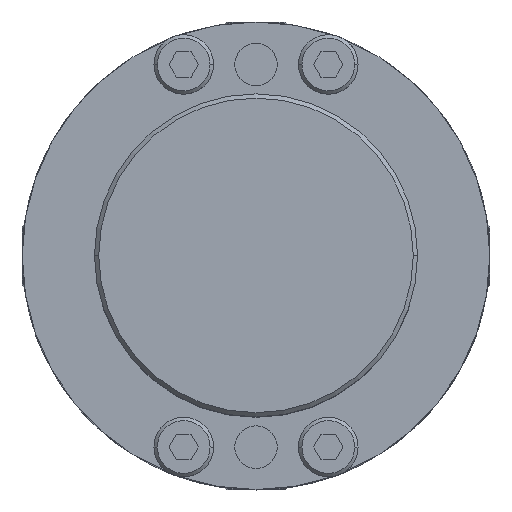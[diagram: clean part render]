
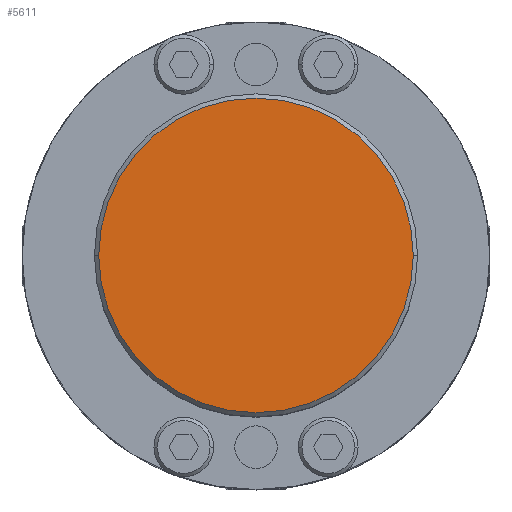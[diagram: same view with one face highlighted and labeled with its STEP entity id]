
A CAD part, top view. The second image highlights one B-rep face of the part: STEP entity #5611.
In plain terms, the highlighted planar face has unit normal (0, 0, 1).
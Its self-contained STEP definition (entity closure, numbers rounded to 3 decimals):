
#1235=CARTESIAN_POINT('',(18.5,0.0,40.));
#1236=VERTEX_POINT('',#1235);
#1243=CARTESIAN_POINT('',(-18.5,0.,40.0));
#1244=VERTEX_POINT('',#1243);
#1245=CARTESIAN_POINT('',(0.,0.0,40.0));
#1246=DIRECTION('',(0.0,0.0,-1.0));
#1247=DIRECTION('',(1.0,0.0,0.0));
#1248=AXIS2_PLACEMENT_3D('',#1245,#1246,#1247);
#1249=CIRCLE('',#1248,18.5);
#1250=EDGE_CURVE('',#1236,#1244,#1249,.T.);
#5574=CARTESIAN_POINT('',(0.,0.0,40.0));
#5575=DIRECTION('',(0.0,0.0,-1.0));
#5576=DIRECTION('',(1.0,0.0,0.0));
#5577=AXIS2_PLACEMENT_3D('',#5574,#5575,#5576);
#5578=CIRCLE('',#5577,18.5);
#5579=EDGE_CURVE('',#1244,#1236,#5578,.T.);
#5602=CARTESIAN_POINT('',(-1.727,0.,40.0));
#5603=DIRECTION('',(0.0,0.0,1.0));
#5604=DIRECTION('',(-1.0,0.0,0.0));
#5605=AXIS2_PLACEMENT_3D('',#5602,#5603,#5604);
#5606=PLANE('',#5605);
#5607=ORIENTED_EDGE('',*,*,#5579,.F.);
#5608=ORIENTED_EDGE('',*,*,#1250,.F.);
#5609=EDGE_LOOP('',(#5607,#5608));
#5610=FACE_OUTER_BOUND('',#5609,.T.);
#5611=ADVANCED_FACE('',(#5610),#5606,.T.);
